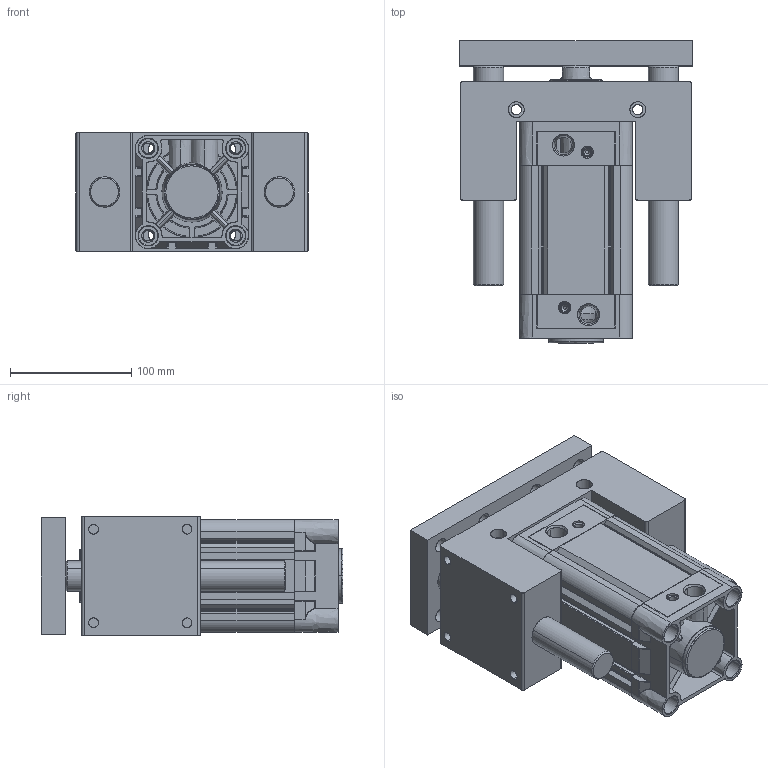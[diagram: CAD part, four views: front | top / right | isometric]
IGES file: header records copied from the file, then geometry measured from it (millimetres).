
Start section: SolidWorks IGES file using analytic representation for surfaces
Global section: file name: D:\ARICA 3D 禽Z軲LER\3D IGES\DNC-U\KDNC\80\KDNC80X50-U-YATAK.IGS,1; native system: 5HSolidWorks 2013; preprocessor: SolidWorks 2013; author: user; date: 160908.094829; units: millimetre
Bounding box: 191 x 248.5 x 98 mm (x, y, z)
Surface area: 504459.8 mm2 (no closed solid volume)
Topology: 0 solids, 0 shells, 1180 faces, 19356 edges, 19346 vertices
Faces by surface type: revolution 691, bspline 489
